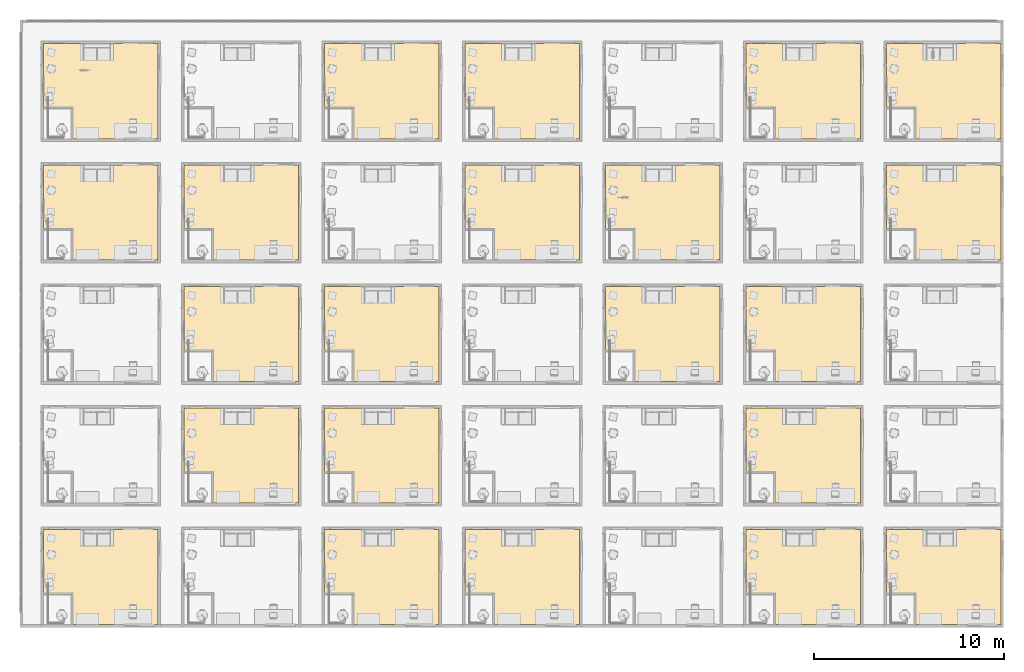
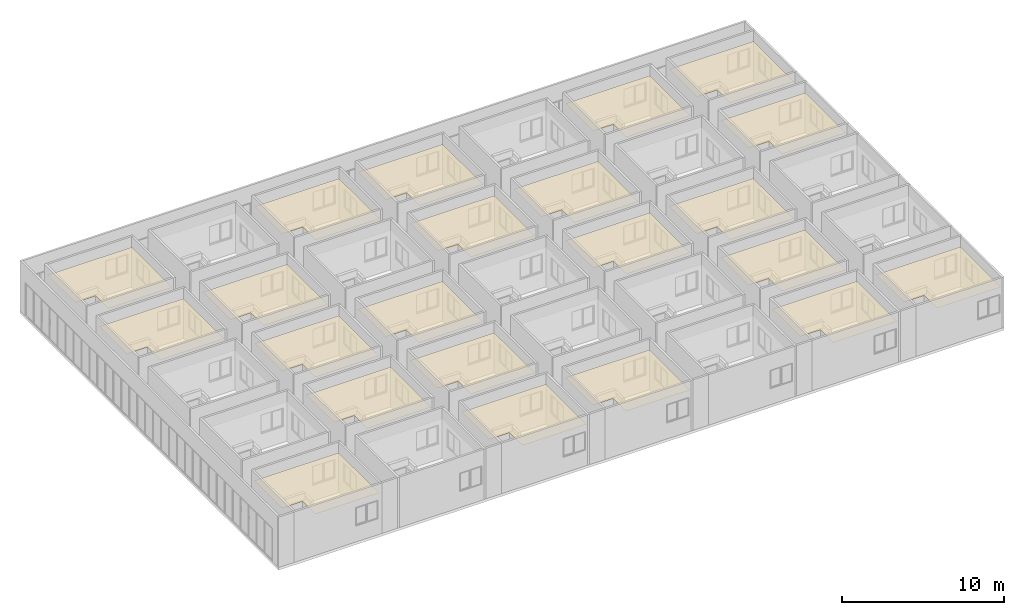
# One storey, part 13 of 71: 22 coverings.
"""IFC4 building model written with IfcOpenShell, lengths in centimetres."""

from ifc_helpers import new_model, entity, si_unit, converted_unit, derived_unit, direction, frame, origin, place, context, subcontext, project, spatial, polygons, type_object, element, save


model = new_model("IFC4")

# Units and contexts
model_context = context("Model", 3, precision=0.001, world=origin(), true_north=direction((6.123233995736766e-17, 1.0)))
body_context = subcontext(model_context, "Body", "Model", "MODEL_VIEW")
ifc_project = project(units=[si_unit("LENGTHUNIT", "METRE", prefix="CENTI"), si_unit("AREAUNIT", "SQUARE_METRE"), si_unit("VOLUMEUNIT", "CUBIC_METRE"), derived_unit("THERMALTRANSMITTANCEUNIT", [(si_unit("MASSUNIT", "GRAM", prefix="KILO"), 1), (si_unit("THERMODYNAMICTEMPERATUREUNIT", "KELVIN"), -1), (si_unit("TIMEUNIT", "SECOND"), -3)]), converted_unit("PLANEANGLEUNIT", "DEGREE", entity("IfcPlaneAngleMeasure", 0.017453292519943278), si_unit("PLANEANGLEUNIT", "RADIAN"), dimensions=[0, 0, 0, 0, 0, 0, 0]), derived_unit("MASSDENSITYUNIT", [(si_unit("MASSUNIT", "GRAM", prefix="KILO"), 1), (si_unit("LENGTHUNIT", "METRE"), -3)]), derived_unit("VAPORPERMEABILITYUNIT", [(si_unit("LENGTHUNIT", "METRE"), -1), (si_unit("TIMEUNIT", "SECOND"), 1)]), derived_unit("USERDEFINED", [(si_unit("MASSUNIT", "GRAM", prefix="KILO"), 1), (si_unit("TIMEUNIT", "SECOND"), -3), (si_unit("LENGTHUNIT", "METRE"), 3), (si_unit("ELECTRICCURRENTUNIT", "AMPERE"), -2)]), derived_unit("SPECIFICHEATCAPACITYUNIT", [(si_unit("THERMODYNAMICTEMPERATUREUNIT", "KELVIN"), -1), (si_unit("LENGTHUNIT", "METRE"), 2), (si_unit("TIMEUNIT", "SECOND"), -2)]), derived_unit("THERMALCONDUCTANCEUNIT", [(si_unit("MASSUNIT", "GRAM", prefix="KILO"), 1), (si_unit("THERMODYNAMICTEMPERATUREUNIT", "KELVIN"), -1), (si_unit("TIMEUNIT", "SECOND"), -3), (si_unit("LENGTHUNIT", "METRE"), 1)]), si_unit("PRESSUREUNIT", "PASCAL"), derived_unit("MODULUSOFELASTICITYUNIT", [(si_unit("MASSUNIT", "GRAM", prefix="KILO"), 1), (si_unit("LENGTHUNIT", "METRE"), -1), (si_unit("TIMEUNIT", "SECOND"), -2)]), derived_unit("THERMALEXPANSIONCOEFFICIENTUNIT", [(si_unit("THERMODYNAMICTEMPERATUREUNIT", "KELVIN"), -1)])], contexts=[model_context])

# Site, building, storey
site_placement = place(None, origin())
site = spatial("IfcSite", under=ifc_project, at=site_placement, Name="Default", CompositionType="ELEMENT")
building_placement = place(site_placement, origin())
building = spatial("IfcBuilding", under=site, at=building_placement, Name="IDS Escape Game Building", CompositionType="ELEMENT")
storey_placement = place(building_placement, frame((0.0, 0.0, 400.0)))
storey = spatial("IfcBuildingStorey", under=building, at=storey_placement, Name="01_First Floor", CompositionType="ELEMENT", Elevation=399.99999999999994)

# Coverings
covering_type = type_object("IfcCoveringType", Name="Basic Ceiling:ARC_45_CEI_SB_PLxx_gen_BERSnl", PredefinedType="CEILING")
covering_1_placement = place(storey_placement, frame((7.0, 13.0, 300.0)))
element("IfcCovering", 1, at=covering_1_placement, inside=storey, type_object=covering_type, Name="Basic Ceiling:ARC_45_CEI_SB_PLxx_gen_BERSnl", ObjectType="Basic Ceiling:ARC_45_CEI_SB_PLxx_gen_BERSnl", PredefinedType="CEILING", context=body_context, shape_type="Tessellation", body=[
    polygons([(600.0, 500.0, 0.0), (0.0, 500.0, 0.0), (0.0, 158.00000000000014, 0.0), (144.99999999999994, 158.00000000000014, 0.0), (144.99999999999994, 0.0, 0.0), (600.0, 0.0, 0.0)], [[[1, 2, 3, 4, 5, 6]]], closed=False),
])
covering_2_placement = place(storey_placement, frame((1483.0, 13.0, 300.0)))
element("IfcCovering", 2, at=covering_2_placement, inside=storey, type_object=covering_type, Name="Basic Ceiling:ARC_45_CEI_SB_PLxx_gen_BERSnl", ObjectType="Basic Ceiling:ARC_45_CEI_SB_PLxx_gen_BERSnl", PredefinedType="CEILING", context=body_context, shape_type="Tessellation", body=[
    polygons([(600.0000000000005, 500.0, 0.0), (2.1657342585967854e-13, 500.0, 0.0), (2.1657342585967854e-13, 158.00000000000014, 0.0), (145.00000000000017, 158.00000000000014, 0.0), (145.00000000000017, 0.0, 0.0), (600.0000000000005, 0.0, 0.0)], [[[1, 2, 3, 4, 5, 6]]], closed=False),
])
covering_3_placement = place(storey_placement, frame((2221.0, 13.0, 300.0)))
element("IfcCovering", 3, at=covering_3_placement, inside=storey, type_object=covering_type, Name="Basic Ceiling:ARC_45_CEI_SB_PLxx_gen_BERSnl", ObjectType="Basic Ceiling:ARC_45_CEI_SB_PLxx_gen_BERSnl", PredefinedType="CEILING", context=body_context, shape_type="Tessellation", body=[
    polygons([(600.0000000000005, 500.0, 0.0), (8.662937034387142e-13, 500.0, 0.0), (4.331468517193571e-13, 158.00000000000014, 0.0), (145.00000000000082, 158.00000000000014, 0.0), (145.00000000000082, 0.0, 0.0), (600.0000000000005, 0.0, 0.0)], [[[1, 2, 3, 4, 5, 6]]], closed=False),
])
for number, where, name in (
    (4, (3697.0, 13.0, 300.0), "Basic Ceiling:ARC_45_CEI_SB_PLxx_gen_BERSnl"),
    (5, (4435.0, 13.0, 300.0), "Basic Ceiling:ARC_45_CEI_SB_PLxx_gen_BERSnl"),
):
    element("IfcCovering", number, at=place(storey_placement, frame(where)), inside=storey, type_object=covering_type, Name=name, ObjectType="Basic Ceiling:ARC_45_CEI_SB_PLxx_gen_BERSnl", PredefinedType="CEILING", context=body_context, shape_type="Tessellation", body=[
        polygons([(600.0000000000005, 500.0, 0.0), (0.0, 500.0, 0.0), (0.0, 158.00000000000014, 0.0), (144.99999999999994, 158.00000000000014, 0.0), (144.99999999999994, 0.0, 0.0), (600.0000000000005, 0.0, 0.0)], [[[1, 2, 3, 4, 5, 6]]], closed=False),
    ])
for number, where, name in (
    (6, (745.0, 651.0, 300.0), "Basic Ceiling:ARC_45_CEI_SB_PLxx_gen_BERSnl"),
    (7, (1483.0, 651.0, 300.0), "Basic Ceiling:ARC_45_CEI_SB_PLxx_gen_BERSnl"),
):
    element("IfcCovering", number, at=place(storey_placement, frame(where)), inside=storey, type_object=covering_type, Name=name, ObjectType="Basic Ceiling:ARC_45_CEI_SB_PLxx_gen_BERSnl", PredefinedType="CEILING", context=body_context, shape_type="Tessellation", body=[
        polygons([(600.0, 499.99999999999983, 0.0), (0.0, 499.99999999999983, 0.0), (0.0, 157.99999999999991, 0.0), (144.99999999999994, 157.99999999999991, 0.0), (144.99999999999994, -1.0828671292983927e-13, 0.0), (600.0, -1.0828671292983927e-13, 0.0)], [[[1, 2, 3, 4, 5, 6]]], closed=False),
    ])
covering_4_placement = place(storey_placement, frame((3697.0, 651.0, 300.0)))
element("IfcCovering", 8, at=covering_4_placement, inside=storey, type_object=covering_type, Name="Basic Ceiling:ARC_45_CEI_SB_PLxx_gen_BERSnl", ObjectType="Basic Ceiling:ARC_45_CEI_SB_PLxx_gen_BERSnl", PredefinedType="CEILING", context=body_context, shape_type="Tessellation", body=[
    polygons([(600.0000000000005, 499.99999999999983, 0.0), (0.0, 499.99999999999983, 0.0), (0.0, 157.99999999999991, 0.0), (144.99999999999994, 157.99999999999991, 0.0), (144.99999999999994, -1.0828671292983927e-13, 0.0), (600.0000000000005, -1.0828671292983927e-13, 0.0)], [[[1, 2, 3, 4, 5, 6]]], closed=False),
])
covering_5_placement = place(storey_placement, frame((745.0, 1289.0, 300.0)))
element("IfcCovering", 9, at=covering_5_placement, inside=storey, type_object=covering_type, Name="Basic Ceiling:ARC_45_CEI_SB_PLxx_gen_BERSnl", ObjectType="Basic Ceiling:ARC_45_CEI_SB_PLxx_gen_BERSnl", PredefinedType="CEILING", context=body_context, shape_type="Tessellation", body=[
    polygons([(600.0, 499.99999999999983, 0.0), (0.0, 499.99999999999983, 0.0), (0.0, 158.00000000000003, 0.0), (144.99999999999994, 158.00000000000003, 0.0), (144.99999999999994, 0.0, 0.0), (600.0, 0.0, 0.0)], [[[1, 2, 3, 4, 5, 6]]], closed=False),
])
covering_6_placement = place(storey_placement, frame((1483.0, 1289.0, 300.0)))
element("IfcCovering", 10, at=covering_6_placement, inside=storey, type_object=covering_type, Name="Basic Ceiling:ARC_45_CEI_SB_PLxx_gen_BERSnl", ObjectType="Basic Ceiling:ARC_45_CEI_SB_PLxx_gen_BERSnl", PredefinedType="CEILING", context=body_context, shape_type="Tessellation", body=[
    polygons([(600.0000000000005, 500.0, 0.0), (2.1657342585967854e-13, 500.0, 0.0), (2.1657342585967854e-13, 158.00000000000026, 0.0), (145.00000000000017, 158.00000000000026, 0.0), (145.00000000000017, 0.0, 0.0), (600.0000000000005, 0.0, 0.0)], [[[1, 2, 3, 4, 5, 6]]], closed=False),
])
covering_7_placement = place(storey_placement, frame((2959.0, 1289.0, 300.0)))
element("IfcCovering", 11, at=covering_7_placement, inside=storey, type_object=covering_type, Name="Basic Ceiling:ARC_45_CEI_SB_PLxx_gen_BERSnl", ObjectType="Basic Ceiling:ARC_45_CEI_SB_PLxx_gen_BERSnl", PredefinedType="CEILING", context=body_context, shape_type="Tessellation", body=[
    polygons([(600.0000000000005, 500.0, 0.0), (8.662937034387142e-13, 500.0, 0.0), (4.331468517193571e-13, 158.00000000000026, 0.0), (145.00000000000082, 158.00000000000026, 0.0), (145.00000000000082, 0.0, 0.0), (600.0000000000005, 0.0, 0.0)], [[[1, 2, 3, 4, 5, 6]]], closed=False),
])
covering_8_placement = place(storey_placement, frame((3697.0, 1289.0, 300.0)))
element("IfcCovering", 12, at=covering_8_placement, inside=storey, type_object=covering_type, Name="Basic Ceiling:ARC_45_CEI_SB_PLxx_gen_BERSnl", ObjectType="Basic Ceiling:ARC_45_CEI_SB_PLxx_gen_BERSnl", PredefinedType="CEILING", context=body_context, shape_type="Tessellation", body=[
    polygons([(600.0000000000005, 500.0, 0.0), (0.0, 500.0, 0.0), (0.0, 158.00000000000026, 0.0), (144.99999999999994, 158.00000000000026, 0.0), (144.99999999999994, 0.0, 0.0), (600.0000000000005, 0.0, 0.0)], [[[1, 2, 3, 4, 5, 6]]], closed=False),
])
for number, where, name in (
    (13, (7.0, 1927.0, 300.0), "Basic Ceiling:ARC_45_CEI_SB_PLxx_gen_BERSnl"),
    (14, (745.0, 1927.0, 300.0), "Basic Ceiling:ARC_45_CEI_SB_PLxx_gen_BERSnl"),
):
    element("IfcCovering", number, at=place(storey_placement, frame(where)), inside=storey, type_object=covering_type, Name=name, ObjectType="Basic Ceiling:ARC_45_CEI_SB_PLxx_gen_BERSnl", PredefinedType="CEILING", context=body_context, shape_type="Tessellation", body=[
        polygons([(600.0, 499.99999999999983, 0.0), (0.0, 499.99999999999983, 0.0), (0.0, 158.00000000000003, 0.0), (144.99999999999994, 158.00000000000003, 0.0), (144.99999999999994, 0.0, 0.0), (600.0, 0.0, 0.0)], [[[1, 2, 3, 4, 5, 6]]], closed=False),
    ])
for number, where, name in (
    (15, (2221.0, 1927.0, 300.0), "Basic Ceiling:ARC_45_CEI_SB_PLxx_gen_BERSnl"),
    (16, (2959.0, 1927.0, 300.0), "Basic Ceiling:ARC_45_CEI_SB_PLxx_gen_BERSnl"),
):
    element("IfcCovering", number, at=place(storey_placement, frame(where)), inside=storey, type_object=covering_type, Name=name, ObjectType="Basic Ceiling:ARC_45_CEI_SB_PLxx_gen_BERSnl", PredefinedType="CEILING", context=body_context, shape_type="Tessellation", body=[
        polygons([(600.0000000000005, 499.99999999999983, 0.0), (8.662937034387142e-13, 499.99999999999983, 0.0), (4.331468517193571e-13, 158.00000000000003, 0.0), (145.00000000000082, 158.00000000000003, 0.0), (145.00000000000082, 0.0, 0.0), (600.0000000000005, 0.0, 0.0)], [[[1, 2, 3, 4, 5, 6]]], closed=False),
    ])
covering_9_placement = place(storey_placement, frame((4435.0, 1927.0, 300.0)))
element("IfcCovering", 17, at=covering_9_placement, inside=storey, type_object=covering_type, Name="Basic Ceiling:ARC_45_CEI_SB_PLxx_gen_BERSnl", ObjectType="Basic Ceiling:ARC_45_CEI_SB_PLxx_gen_BERSnl", PredefinedType="CEILING", context=body_context, shape_type="Tessellation", body=[
    polygons([(600.0000000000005, 499.99999999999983, 0.0), (0.0, 499.99999999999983, 0.0), (0.0, 158.00000000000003, 0.0), (144.99999999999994, 158.00000000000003, 0.0), (144.99999999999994, 0.0, 0.0), (600.0000000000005, 0.0, 0.0)], [[[1, 2, 3, 4, 5, 6]]], closed=False),
])
covering_10_placement = place(storey_placement, frame((7.0, 2565.0, 300.0)))
element("IfcCovering", 18, at=covering_10_placement, inside=storey, type_object=covering_type, Name="Basic Ceiling:ARC_45_CEI_SB_PLxx_gen_BERSnl", ObjectType="Basic Ceiling:ARC_45_CEI_SB_PLxx_gen_BERSnl", PredefinedType="CEILING", context=body_context, shape_type="Tessellation", body=[
    polygons([(600.0, 499.99999999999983, 0.0), (0.0, 499.99999999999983, 0.0), (0.0, 158.00000000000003, 0.0), (144.99999999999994, 158.00000000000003, 0.0), (144.99999999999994, 0.0, 0.0), (600.0, 0.0, 0.0)], [[[1, 2, 3, 4, 5, 6]]], closed=False),
])
covering_11_placement = place(storey_placement, frame((1483.0, 2565.0, 300.0)))
element("IfcCovering", 19, at=covering_11_placement, inside=storey, type_object=covering_type, Name="Basic Ceiling:ARC_45_CEI_SB_PLxx_gen_BERSnl", ObjectType="Basic Ceiling:ARC_45_CEI_SB_PLxx_gen_BERSnl", PredefinedType="CEILING", context=body_context, shape_type="Tessellation", body=[
    polygons([(600.0000000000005, 499.99999999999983, 0.0), (2.1657342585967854e-13, 499.99999999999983, 0.0), (2.1657342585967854e-13, 158.00000000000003, 0.0), (145.00000000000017, 158.00000000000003, 0.0), (145.00000000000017, 0.0, 0.0), (600.0000000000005, 0.0, 0.0)], [[[1, 2, 3, 4, 5, 6]]], closed=False),
])
covering_12_placement = place(storey_placement, frame((2221.0, 2565.0, 300.0)))
element("IfcCovering", 20, at=covering_12_placement, inside=storey, type_object=covering_type, Name="Basic Ceiling:ARC_45_CEI_SB_PLxx_gen_BERSnl", ObjectType="Basic Ceiling:ARC_45_CEI_SB_PLxx_gen_BERSnl", PredefinedType="CEILING", context=body_context, shape_type="Tessellation", body=[
    polygons([(600.0000000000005, 499.99999999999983, 0.0), (8.662937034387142e-13, 499.99999999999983, 0.0), (4.331468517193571e-13, 158.00000000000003, 0.0), (145.00000000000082, 158.00000000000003, 0.0), (145.00000000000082, 0.0, 0.0), (600.0000000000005, 0.0, 0.0)], [[[1, 2, 3, 4, 5, 6]]], closed=False),
])
for number, where, name in (
    (21, (3697.0, 2565.0, 300.0), "Basic Ceiling:ARC_45_CEI_SB_PLxx_gen_BERSnl"),
    (22, (4435.0, 2565.0, 300.0), "Basic Ceiling:ARC_45_CEI_SB_PLxx_gen_BERSnl"),
):
    element("IfcCovering", number, at=place(storey_placement, frame(where)), inside=storey, type_object=covering_type, Name=name, ObjectType="Basic Ceiling:ARC_45_CEI_SB_PLxx_gen_BERSnl", PredefinedType="CEILING", context=body_context, shape_type="Tessellation", body=[
        polygons([(600.0000000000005, 499.99999999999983, 0.0), (0.0, 499.99999999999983, 0.0), (0.0, 158.00000000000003, 0.0), (144.99999999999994, 158.00000000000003, 0.0), (144.99999999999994, 0.0, 0.0), (600.0000000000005, 0.0, 0.0)], [[[1, 2, 3, 4, 5, 6]]], closed=False),
    ])

save(model, "model.ifc")
